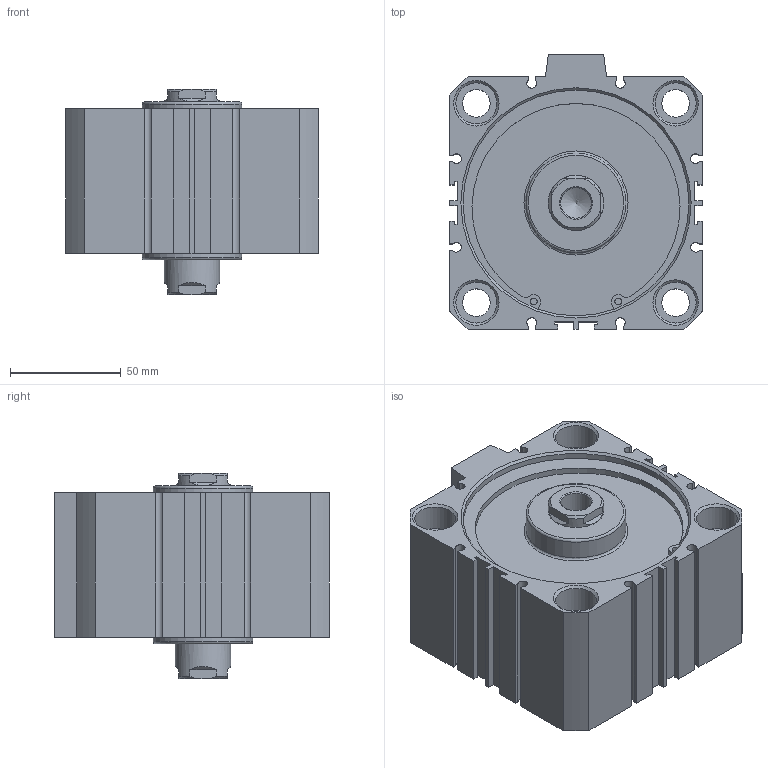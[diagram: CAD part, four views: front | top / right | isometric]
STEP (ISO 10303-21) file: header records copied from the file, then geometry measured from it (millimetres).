
FILE_DESCRIPTION((''),'2;1');
FILE_NAME('I:\3D電子目錄\氣缸\JDD\JDD-S\JDD100-S\JDD100x10-S.stp','2007-02-09T09:14:04',('662F206'),(''),'Autodesk Inventor 10','Autodesk Inventor 10','');
FILE_SCHEMA(('AUTOMOTIVE_DESIGN { 1 0 10303 214 1 1 1 1 }'));
Length unit declared in the file: millimetre
Products named in the file (3): JDD100-S; R 形環 100
Assembly tree (3 placements, depth 2):
  JDD100-S
    JDD100-S
    R 形環 100  x2
Bounding box: 114 x 124 x 92.7 mm (x, y, z)
Volume: 701208.7 mm3; surface area: 100790.2 mm2
Topology: 3 solids, 3 shells, 200 faces, 502 edges, 330 vertices
Faces by surface type: plane 116, cylinder 52, cone 24, bspline 6, torus 2
Full cylindrical faces by diameter (mm): 3.1 x4, 3.5 x2, 12.5 x4, 18.5 x8, 25 x2, 45 x2, 102 x4, 106 x2
Entity records: 5511 total; most frequent: CARTESIAN_POINT 1094, DIRECTION 908, ORIENTED_EDGE 824, EDGE_CURVE 412, AXIS2_PLACEMENT_3D 324, VERTEX_POINT 300, EDGE_LOOP 272, VECTOR 260
